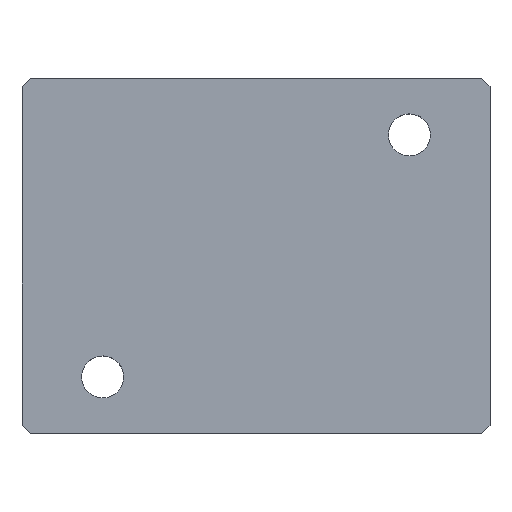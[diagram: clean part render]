
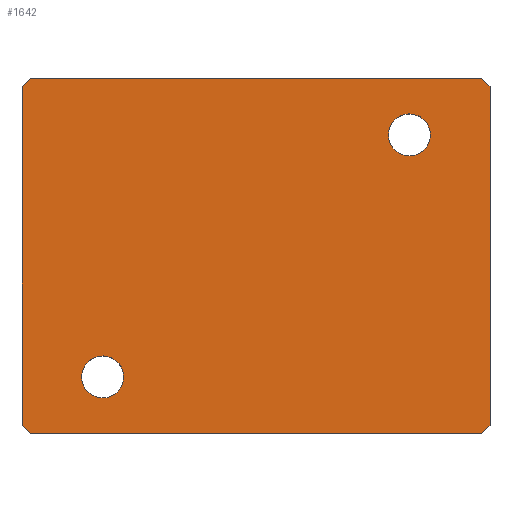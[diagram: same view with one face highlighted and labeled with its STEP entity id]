
A CAD part, top view. The second image highlights one B-rep face of the part: STEP entity #1642.
In plain terms, the highlighted planar face has unit normal (0, 0, 1).
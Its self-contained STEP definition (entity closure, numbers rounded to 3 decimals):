
#212=AXIS2_PLACEMENT_3D('Circle Axis2P3D',#210,#211,$) ;
#246=AXIS2_PLACEMENT_3D('Circle Axis2P3D',#244,#245,$) ;
#278=AXIS2_PLACEMENT_3D('Circle Axis2P3D',#276,#277,$) ;
#305=AXIS2_PLACEMENT_3D('Circle Axis2P3D',#303,#304,$) ;
#1566=AXIS2_PLACEMENT_3D('Plane Axis2P3D',#1563,#1564,#1565) ;
#205=CARTESIAN_POINT('Vertex',(-106.409,-81.233,52.)) ;
#210=CARTESIAN_POINT('Axis2P3D Location',(-95.,-75.,52.)) ;
#214=CARTESIAN_POINT('Vertex',(-83.591,-68.767,52.)) ;
#244=CARTESIAN_POINT('Axis2P3D Location',(-95.,-75.,52.)) ;
#271=CARTESIAN_POINT('Vertex',(106.409,81.233,52.)) ;
#276=CARTESIAN_POINT('Axis2P3D Location',(95.,75.,52.)) ;
#280=CARTESIAN_POINT('Vertex',(83.591,68.767,52.)) ;
#303=CARTESIAN_POINT('Axis2P3D Location',(95.,75.,52.)) ;
#1563=CARTESIAN_POINT('Axis2P3D Location',(0.,0.,52.)) ;
#1568=CARTESIAN_POINT('Line Origine',(0.,110.,52.)) ;
#1572=CARTESIAN_POINT('Vertex',(140.,110.,52.)) ;
#1574=CARTESIAN_POINT('Vertex',(-140.,110.,52.)) ;
#1577=CARTESIAN_POINT('Line Origine',(-142.5,107.5,52.)) ;
#1581=CARTESIAN_POINT('Vertex',(-145.,105.,52.)) ;
#1584=CARTESIAN_POINT('Line Origine',(-145.,0.,52.)) ;
#1588=CARTESIAN_POINT('Vertex',(-145.,-105.,52.)) ;
#1591=CARTESIAN_POINT('Line Origine',(-142.5,-107.5,52.)) ;
#1595=CARTESIAN_POINT('Vertex',(-140.,-110.,52.)) ;
#1598=CARTESIAN_POINT('Line Origine',(0.,-110.,52.)) ;
#1602=CARTESIAN_POINT('Vertex',(140.,-110.,52.)) ;
#1605=CARTESIAN_POINT('Line Origine',(142.5,-107.5,52.)) ;
#1609=CARTESIAN_POINT('Vertex',(145.,-105.,52.)) ;
#1612=CARTESIAN_POINT('Line Origine',(145.,0.,52.)) ;
#1616=CARTESIAN_POINT('Vertex',(145.,105.,52.)) ;
#1619=CARTESIAN_POINT('Line Origine',(142.5,107.5,52.)) ;
#211=DIRECTION('Axis2P3D Direction',(0.,-0.,1.)) ;
#245=DIRECTION('Axis2P3D Direction',(0.,-0.,1.)) ;
#277=DIRECTION('Axis2P3D Direction',(0.,-0.,1.)) ;
#304=DIRECTION('Axis2P3D Direction',(0.,-0.,1.)) ;
#1564=DIRECTION('Axis2P3D Direction',(0.,0.,1.)) ;
#1565=DIRECTION('Axis2P3D XDirection',(1.,0.,0.)) ;
#1569=DIRECTION('Vector Direction',(1.,0.,0.)) ;
#1578=DIRECTION('Vector Direction',(0.707,0.707,0.)) ;
#1585=DIRECTION('Vector Direction',(0.,1.,0.)) ;
#1592=DIRECTION('Vector Direction',(0.707,-0.707,0.)) ;
#1599=DIRECTION('Vector Direction',(-1.,0.,0.)) ;
#1606=DIRECTION('Vector Direction',(-0.707,-0.707,0.)) ;
#1613=DIRECTION('Vector Direction',(0.,-1.,0.)) ;
#1620=DIRECTION('Vector Direction',(0.707,-0.707,0.)) ;
#1570=VECTOR('Line Direction',#1569,1.) ;
#1579=VECTOR('Line Direction',#1578,1.) ;
#1586=VECTOR('Line Direction',#1585,1.) ;
#1593=VECTOR('Line Direction',#1592,1.) ;
#1600=VECTOR('Line Direction',#1599,1.) ;
#1607=VECTOR('Line Direction',#1606,1.) ;
#1614=VECTOR('Line Direction',#1613,1.) ;
#1621=VECTOR('Line Direction',#1620,1.) ;
#1625=ORIENTED_EDGE('',*,*,#1576,.T.) ;
#1626=ORIENTED_EDGE('',*,*,#1583,.F.) ;
#1627=ORIENTED_EDGE('',*,*,#1590,.T.) ;
#1628=ORIENTED_EDGE('',*,*,#1597,.F.) ;
#1629=ORIENTED_EDGE('',*,*,#1604,.T.) ;
#1630=ORIENTED_EDGE('',*,*,#1611,.F.) ;
#1631=ORIENTED_EDGE('',*,*,#1618,.T.) ;
#1632=ORIENTED_EDGE('',*,*,#1623,.F.) ;
#1635=ORIENTED_EDGE('',*,*,#216,.F.) ;
#1636=ORIENTED_EDGE('',*,*,#248,.F.) ;
#1639=ORIENTED_EDGE('',*,*,#282,.F.) ;
#1640=ORIENTED_EDGE('',*,*,#307,.F.) ;
#1637=FACE_BOUND('',#1634,.T.) ;
#1641=FACE_BOUND('',#1638,.T.) ;
#1642=ADVANCED_FACE('PartBody',(#1633,#1637,#1641),#1567,.T.) ;
#213=CIRCLE('generated circle',#212,13.) ;
#247=CIRCLE('generated circle',#246,13.) ;
#279=CIRCLE('generated circle',#278,13.) ;
#306=CIRCLE('generated circle',#305,13.) ;
#216=EDGE_CURVE('',#206,#215,#213,.T.) ;
#248=EDGE_CURVE('',#215,#206,#247,.T.) ;
#282=EDGE_CURVE('',#272,#281,#279,.T.) ;
#307=EDGE_CURVE('',#281,#272,#306,.T.) ;
#1576=EDGE_CURVE('',#1573,#1575,#1571,.F.) ;
#1583=EDGE_CURVE('',#1582,#1575,#1580,.T.) ;
#1590=EDGE_CURVE('',#1582,#1589,#1587,.F.) ;
#1597=EDGE_CURVE('',#1596,#1589,#1594,.F.) ;
#1604=EDGE_CURVE('',#1596,#1603,#1601,.F.) ;
#1611=EDGE_CURVE('',#1610,#1603,#1608,.T.) ;
#1618=EDGE_CURVE('',#1610,#1617,#1615,.F.) ;
#1623=EDGE_CURVE('',#1573,#1617,#1622,.T.) ;
#1624=EDGE_LOOP('',(#1625,#1626,#1627,#1628,#1629,#1630,#1631,#1632)) ;
#1634=EDGE_LOOP('',(#1635,#1636)) ;
#1638=EDGE_LOOP('',(#1639,#1640)) ;
#1633=FACE_OUTER_BOUND('',#1624,.T.) ;
#1571=LINE('Line',#1568,#1570) ;
#1580=LINE('Line',#1577,#1579) ;
#1587=LINE('Line',#1584,#1586) ;
#1594=LINE('Line',#1591,#1593) ;
#1601=LINE('Line',#1598,#1600) ;
#1608=LINE('Line',#1605,#1607) ;
#1615=LINE('Line',#1612,#1614) ;
#1622=LINE('Line',#1619,#1621) ;
#1567=PLANE('',#1566) ;
#206=VERTEX_POINT('',#205) ;
#215=VERTEX_POINT('',#214) ;
#272=VERTEX_POINT('',#271) ;
#281=VERTEX_POINT('',#280) ;
#1573=VERTEX_POINT('',#1572) ;
#1575=VERTEX_POINT('',#1574) ;
#1582=VERTEX_POINT('',#1581) ;
#1589=VERTEX_POINT('',#1588) ;
#1596=VERTEX_POINT('',#1595) ;
#1603=VERTEX_POINT('',#1602) ;
#1610=VERTEX_POINT('',#1609) ;
#1617=VERTEX_POINT('',#1616) ;
